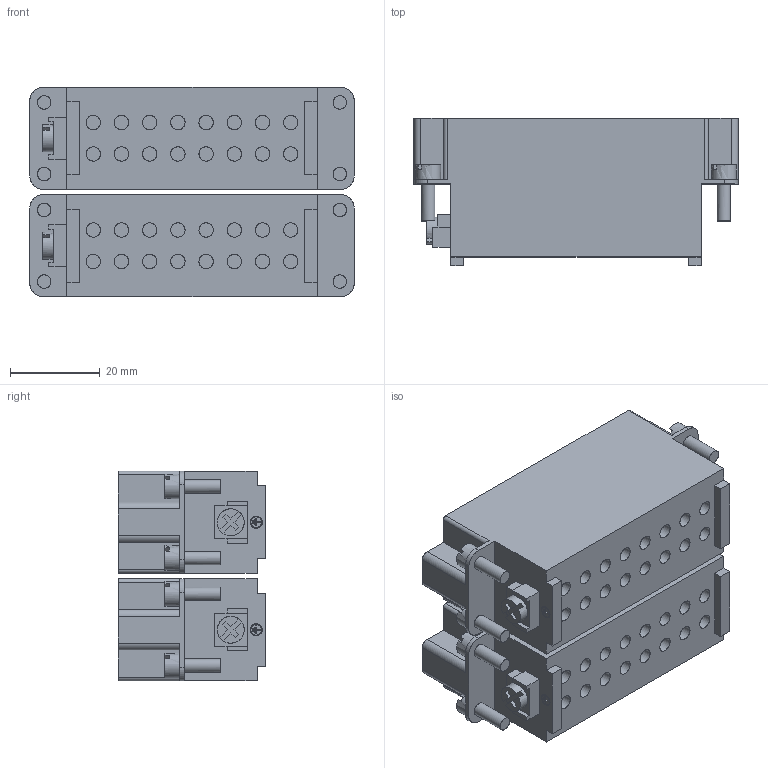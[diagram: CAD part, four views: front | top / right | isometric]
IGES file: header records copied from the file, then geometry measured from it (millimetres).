
Start section: VISI Layer Mapping Iges    VISI  0      LAYER0  1      WARNINGS
Global section: file name: G:\Produktkommunikation\Support\CD-Online-Katalog\3D Daten Produkte\15052012\E2702_32A.igs; native system: VISI 19.0; preprocessor: 2.0; author: nus; organization: Unknown; date: 20120515.150119; units: millimetre
Bounding box: 72.4 x 32.9 x 46.8 mm (x, y, z)
Surface area: 28845.9 mm2 (no closed solid volume)
Topology: 0 solids, 0 shells, 954 faces, 7681 edges, 7455 vertices
Faces by surface type: bspline 954
